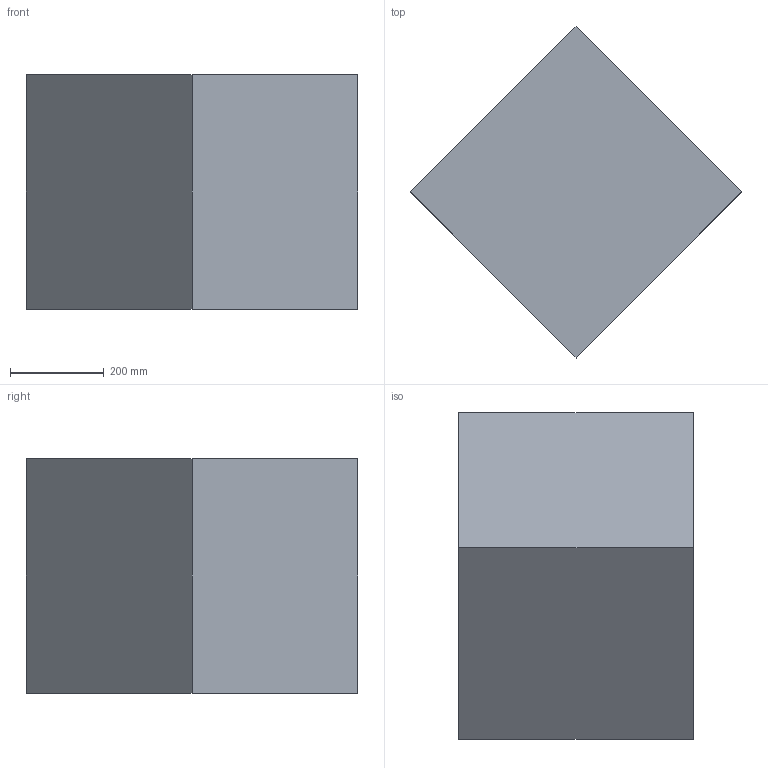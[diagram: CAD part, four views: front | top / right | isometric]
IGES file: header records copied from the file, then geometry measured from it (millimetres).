
Global section: file name: /Users/methodHF/cube1000.igs; preprocessor: I-DEAS 3D IGES Translator 9; date: 20030716.131105; units: millimetre
Bounding box: 707.11 x 707.11 x 500 mm (x, y, z)
Surface area: 1499999.2 mm2 (no closed solid volume)
Topology: 0 solids, 0 shells, 6 faces, 24 edges, 24 vertices
Faces by surface type: bspline 6
